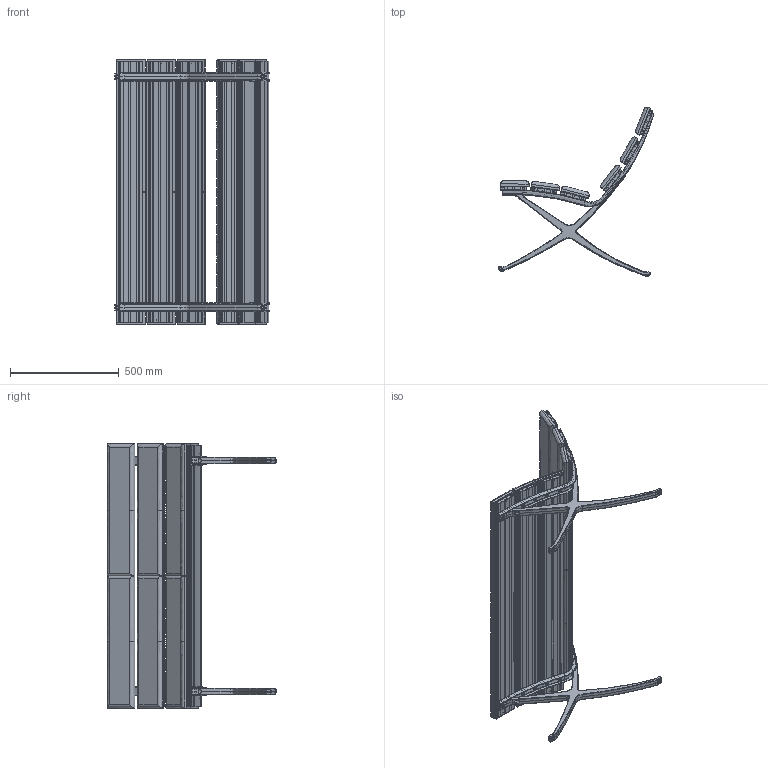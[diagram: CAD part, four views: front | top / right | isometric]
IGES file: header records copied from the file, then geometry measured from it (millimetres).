
Start section: SolidWorks IGES file using analytic representation for surfaces
Global section: file name: W:\OFICINA TÉCNICA 9001\2-MOBILIARIO E INSTALACIÓN\394- BENCH B\PLANOS TÉCNICOS\2D-3D\IGS\MI-394-05-02-F230113-BENCH B 2PLAZAS TAPIZADO.IGS; native system: SolidWorks 2011; preprocessor: SolidWorks 2011; author: otecnica01; date: 140707.135213; units: millimetre
Bounding box: 711.89 x 776.79 x 1213.01 mm (x, y, z)
Volume: 32163289.7 mm3; surface area: 6815880 mm2
Topology: 94 solids, 94 shells, 3028 faces, 7502 edges, 4620 vertices
Faces by surface type: revolution 1814, plane 958, bspline 256
